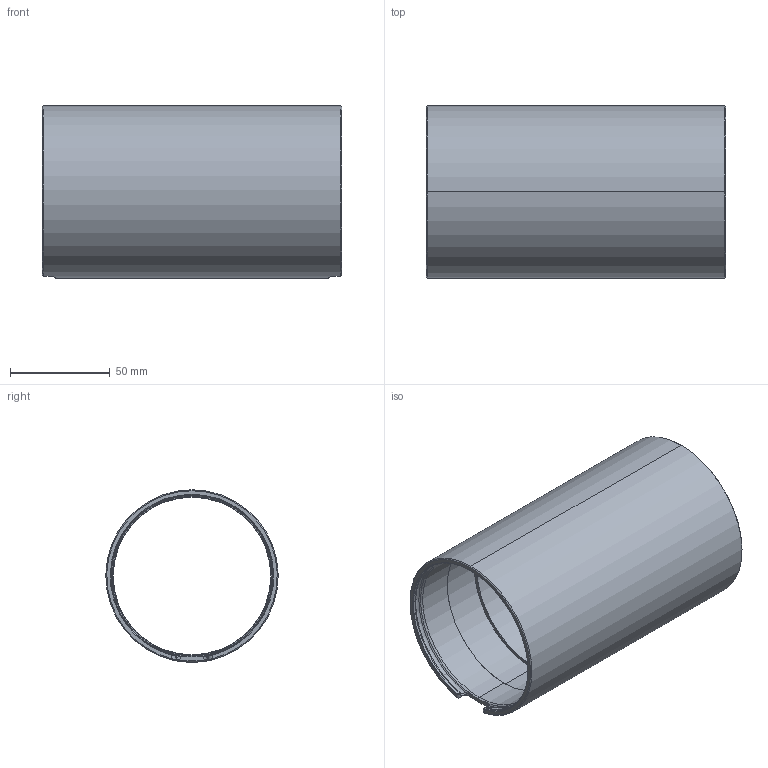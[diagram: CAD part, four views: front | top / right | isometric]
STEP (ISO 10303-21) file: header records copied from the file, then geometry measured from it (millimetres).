
FILE_DESCRIPTION (( 'STEP AP214' ), '1' );
FILE_NAME ('BR-100611-200_RevC.STEP', '2025-03-03T21:19:06', ( '' ), ( '' ), 'SwSTEP 2.0', 'SolidWorks 2024', '' );
FILE_SCHEMA (( 'AUTOMOTIVE_DESIGN' ));
Length unit declared in the file: millimetre
Products named in the file (1): BR-100611-200_RevC
Bounding box: 150 x 86.48 x 86.5 mm (x, y, z)
Volume: 119322.4 mm3; surface area: 81010.7 mm2
Topology: 1 solids, 1 shells, 96 faces, 244 edges, 152 vertices
Faces by surface type: cylinder 26, bspline 24, cone 18, plane 16, torus 12
Entity records: 5958 total; most frequent: CARTESIAN_POINT 3876, ORIENTED_EDGE 488, DIRECTION 346, EDGE_CURVE 244, VERTEX_POINT 152, AXIS2_PLACEMENT_3D 149, B_SPLINE_CURVE_WITH_KNOTS 116, EDGE_LOOP 100
